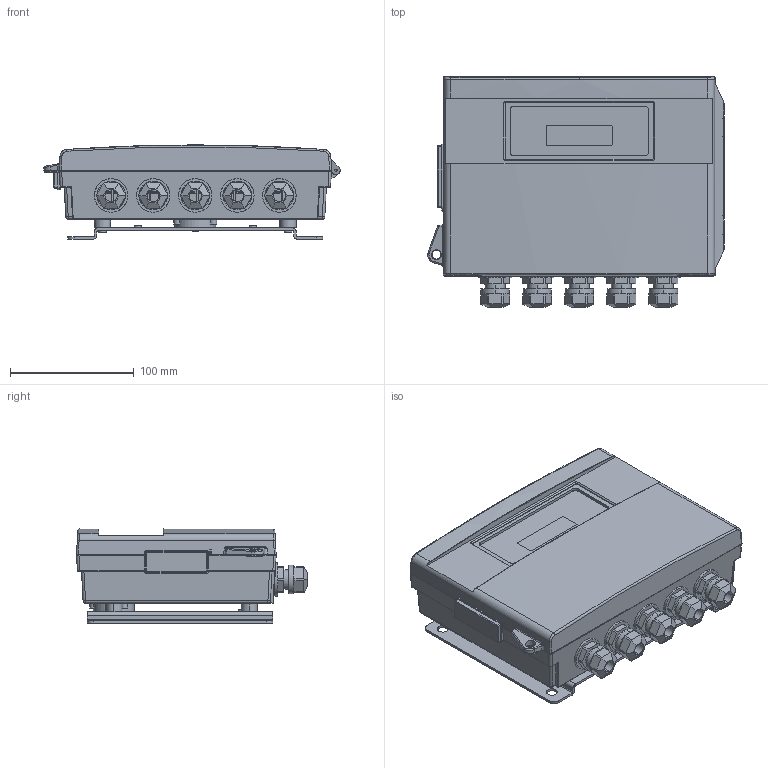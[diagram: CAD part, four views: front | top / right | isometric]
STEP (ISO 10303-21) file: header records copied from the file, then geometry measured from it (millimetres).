
FILE_DESCRIPTION (( 'STEP AP214' ), '1' );
FILE_NAME ('AS_FEB.STEP', '2020-05-06T23:42:27', ( '' ), ( '' ), 'SwSTEP 2.0', 'SolidWorks 2018', '' );
FILE_SCHEMA (( 'AUTOMOTIVE_DESIGN' ));
Length unit declared in the file: millimetre
Products named in the file (5): 端子カバー_130816A; FEB_200501; FEB_取付板_131116; AS_FEB; 外カバー_131115
Assembly tree (4 placements, depth 2):
  AS_FEB
    FEB_200501
    FEB_取付板_131116
    端子カバー_130816A
    外カバー_131115
Bounding box: 239.7 x 186.73 x 76.1 mm (x, y, z)
Volume: 1552961.6 mm3; surface area: 347762.9 mm2
Topology: 4 solids, 4 shells, 2596 faces, 7131 edges, 4689 vertices
Faces by surface type: plane 1387, bspline 719, cylinder 446, torus 19, sphere 15, cone 10
Entity records: 84789 total; most frequent: CARTESIAN_POINT 24897, ORIENTED_EDGE 14238, DIRECTION 10261, EDGE_CURVE 7119, VERTEX_POINT 4685, LINE 4665, VECTOR 4665, AXIS2_PLACEMENT_3D 2798
